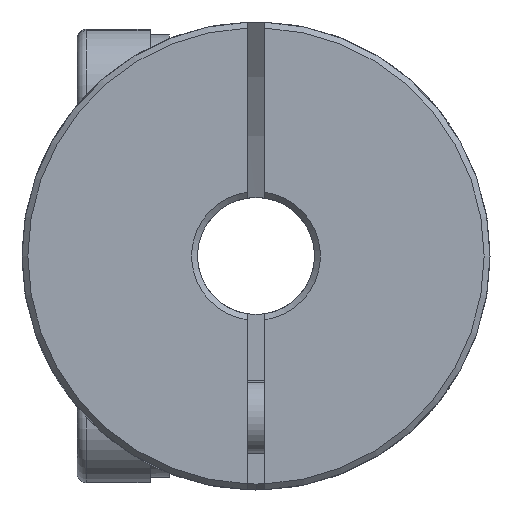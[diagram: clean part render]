
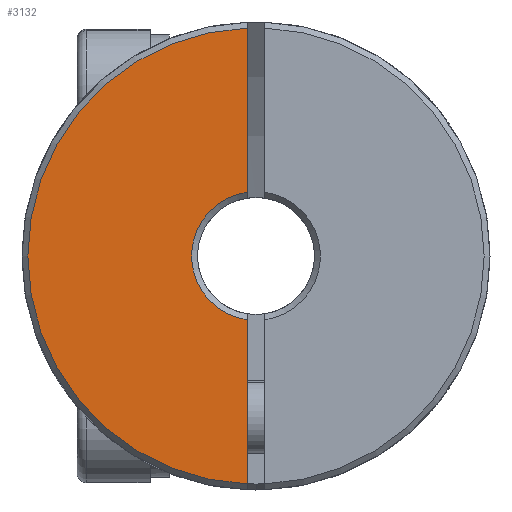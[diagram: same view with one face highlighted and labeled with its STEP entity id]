
A CAD part, front view. The second image highlights one B-rep face of the part: STEP entity #3132.
In plain terms, the highlighted planar face has unit normal (0, -1, 0).
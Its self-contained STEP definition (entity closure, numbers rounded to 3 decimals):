
#247 = DIRECTION ( 'NONE',  ( 0., 0., 1. ) ) ;
#271 = CARTESIAN_POINT ( 'NONE',  ( 0., -15.02, 0. ) ) ;
#301 = PLANE ( 'NONE',  #4780 ) ;
#422 = ORIENTED_EDGE ( 'NONE', *, *, #1551, .F. ) ;
#435 = EDGE_LOOP ( 'NONE', ( #422, #6793, #2573, #5331 ) ) ;
#981 = DIRECTION ( 'NONE',  ( 0., 0., 1. ) ) ;
#1421 = LINE ( 'NONE', #4903, #6413 ) ;
#1551 = EDGE_CURVE ( 'NONE', #7447, #7146, #2898, .T. ) ;
#1848 = CARTESIAN_POINT ( 'NONE',  ( -0.3, -15.02, 0. ) ) ;
#1906 = CARTESIAN_POINT ( 'NONE',  ( -0.3, -15.02, 7.794 ) ) ;
#1989 = EDGE_CURVE ( 'NONE', #7447, #2841, #2717, .T. ) ;
#2177 = AXIS2_PLACEMENT_3D ( 'NONE', #3323, #6788, #3884 ) ;
#2573 = ORIENTED_EDGE ( 'NONE', *, *, #4851, .F. ) ;
#2649 = DIRECTION ( 'NONE',  ( 0., 0., -1. ) ) ;
#2717 = CIRCLE ( 'NONE', #2177, 7.8 ) ;
#2841 = VERTEX_POINT ( 'NONE', #5346 ) ;
#2898 = LINE ( 'NONE', #1848, #7427 ) ;
#3132 = ADVANCED_FACE ( 'NONE', ( #4251 ), #301, .F. ) ;
#3323 = CARTESIAN_POINT ( 'NONE',  ( 0., -15.02, 0. ) ) ;
#3682 = DIRECTION ( 'NONE',  ( 0., 0., -1. ) ) ;
#3884 = DIRECTION ( 'NONE',  ( 0., 0., 1. ) ) ;
#4251 = FACE_OUTER_BOUND ( 'NONE', #435, .T. ) ;
#4425 = CARTESIAN_POINT ( 'NONE',  ( -0.3, -15.02, 2.179 ) ) ;
#4780 = AXIS2_PLACEMENT_3D ( 'NONE', #6150, #5139, #981 ) ;
#4803 = CIRCLE ( 'NONE', #6112, 2.2 ) ;
#4851 = EDGE_CURVE ( 'NONE', #4930, #2841, #1421, .T. ) ;
#4903 = CARTESIAN_POINT ( 'NONE',  ( -0.3, -15.02, 0. ) ) ;
#4930 = VERTEX_POINT ( 'NONE', #7415 ) ;
#5139 = DIRECTION ( 'NONE',  ( 0., 1., 0. ) ) ;
#5331 = ORIENTED_EDGE ( 'NONE', *, *, #7577, .T. ) ;
#5346 = CARTESIAN_POINT ( 'NONE',  ( -0.3, -15.02, -7.794 ) ) ;
#6112 = AXIS2_PLACEMENT_3D ( 'NONE', #271, #6191, #247 ) ;
#6150 = CARTESIAN_POINT ( 'NONE',  ( 0., -15.02, 0. ) ) ;
#6191 = DIRECTION ( 'NONE',  ( 0., 1., 0. ) ) ;
#6413 = VECTOR ( 'NONE', #2649, 1000. ) ;
#6788 = DIRECTION ( 'NONE',  ( 0., -1., 0. ) ) ;
#6793 = ORIENTED_EDGE ( 'NONE', *, *, #1989, .T. ) ;
#7146 = VERTEX_POINT ( 'NONE', #4425 ) ;
#7415 = CARTESIAN_POINT ( 'NONE',  ( -0.3, -15.02, -2.179 ) ) ;
#7427 = VECTOR ( 'NONE', #3682, 1000. ) ;
#7447 = VERTEX_POINT ( 'NONE', #1906 ) ;
#7577 = EDGE_CURVE ( 'NONE', #4930, #7146, #4803, .T. ) ;
